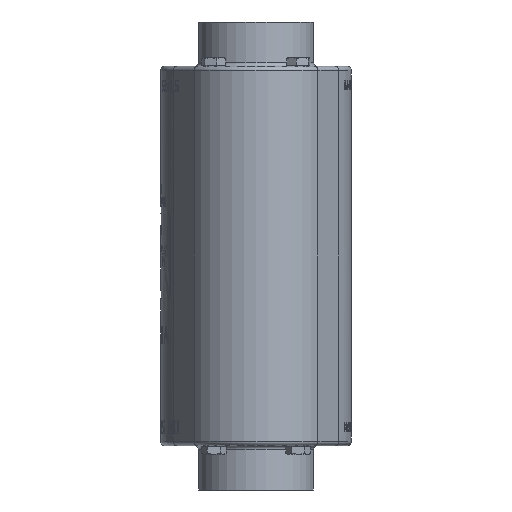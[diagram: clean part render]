
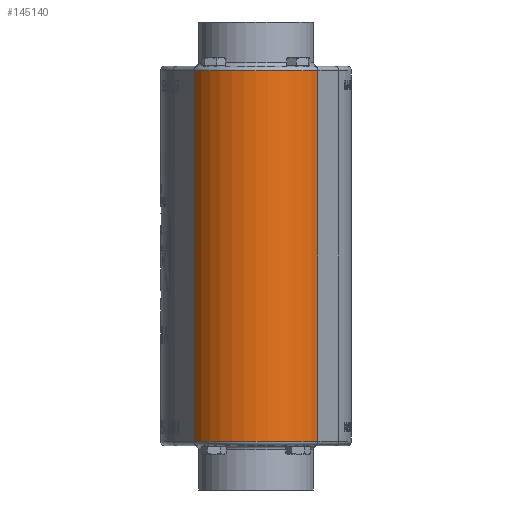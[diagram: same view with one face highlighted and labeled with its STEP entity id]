
A CAD part, left-side view. The second image highlights one B-rep face of the part: STEP entity #145140.
In plain terms, the highlighted cylindrical face has radius 33 mm (diameter 66 mm), a partial arc.
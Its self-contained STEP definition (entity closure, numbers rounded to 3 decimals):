
#3494 = LINE ( 'NONE', #133073, #147701 ) ;
#8295 = CARTESIAN_POINT ( 'NONE',  ( -22., 0., -85.5 ) ) ;
#9674 = EDGE_CURVE ( 'NONE', #139369, #34113, #117814, .T. ) ;
#22304 = DIRECTION ( 'NONE',  ( 0., -1., 0. ) ) ;
#29390 = CARTESIAN_POINT ( 'NONE',  ( -22., 0., -108.001 ) ) ;
#31568 = AXIS2_PLACEMENT_3D ( 'NONE', #8295, #105999, #22304 ) ;
#31948 = CARTESIAN_POINT ( 'NONE',  ( -22., 0., 85.5 ) ) ;
#34113 = VERTEX_POINT ( 'NONE', #145873 ) ;
#42993 = ORIENTED_EDGE ( 'NONE', *, *, #116269, .T. ) ;
#44599 = VERTEX_POINT ( 'NONE', #141613 ) ;
#46006 = DIRECTION ( 'NONE',  ( 0., -1., 0. ) ) ;
#46558 = CYLINDRICAL_SURFACE ( 'NONE', #157169, 33. ) ;
#48976 = EDGE_CURVE ( 'NONE', #139369, #78368, #3494, .T. ) ;
#59838 = AXIS2_PLACEMENT_3D ( 'NONE', #31948, #129643, #46006 ) ;
#64205 = FACE_OUTER_BOUND ( 'NONE', #77620, .T. ) ;
#75301 = DIRECTION ( 'NONE',  ( 0., 0., 1. ) ) ;
#77620 = EDGE_LOOP ( 'NONE', ( #140115, #147743, #139302, #42993 ) ) ;
#78368 = VERTEX_POINT ( 'NONE', #91088 ) ;
#88782 = CARTESIAN_POINT ( 'NONE',  ( -38.5, -28.579, -108.001 ) ) ;
#91088 = CARTESIAN_POINT ( 'NONE',  ( -38.5, 28.579, 85.5 ) ) ;
#91418 = CARTESIAN_POINT ( 'NONE',  ( -38.5, 28.579, -85.5 ) ) ;
#94589 = VECTOR ( 'NONE', #75301, 1000. ) ;
#105999 = DIRECTION ( 'NONE',  ( 0., 0., 1. ) ) ;
#113694 = DIRECTION ( 'NONE',  ( 0., 0., 1. ) ) ;
#114589 = CIRCLE ( 'NONE', #59838, 33. ) ;
#116269 = EDGE_CURVE ( 'NONE', #44599, #78368, #114589, .T. ) ;
#117814 = CIRCLE ( 'NONE', #31568, 33. ) ;
#128543 = EDGE_CURVE ( 'NONE', #34113, #44599, #131560, .T. ) ;
#129643 = DIRECTION ( 'NONE',  ( 0., 0., -1. ) ) ;
#131560 = LINE ( 'NONE', #88782, #94589 ) ;
#133073 = CARTESIAN_POINT ( 'NONE',  ( -38.5, 28.579, -108.001 ) ) ;
#139302 = ORIENTED_EDGE ( 'NONE', *, *, #128543, .T. ) ;
#139369 = VERTEX_POINT ( 'NONE', #91418 ) ;
#140115 = ORIENTED_EDGE ( 'NONE', *, *, #48976, .F. ) ;
#141613 = CARTESIAN_POINT ( 'NONE',  ( -38.5, -28.579, 85.5 ) ) ;
#145140 = ADVANCED_FACE ( 'NONE', ( #64205 ), #46558, .T. ) ;
#145873 = CARTESIAN_POINT ( 'NONE',  ( -38.5, -28.579, -85.5 ) ) ;
#147701 = VECTOR ( 'NONE', #161249, 1000. ) ;
#147743 = ORIENTED_EDGE ( 'NONE', *, *, #9674, .T. ) ;
#157169 = AXIS2_PLACEMENT_3D ( 'NONE', #29390, #113694, #169947 ) ;
#161249 = DIRECTION ( 'NONE',  ( 0., 0., 1. ) ) ;
#169947 = DIRECTION ( 'NONE',  ( 0., -1., 0. ) ) ;
